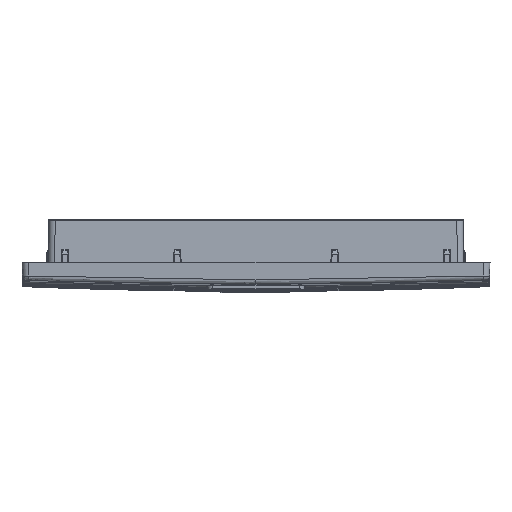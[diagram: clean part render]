
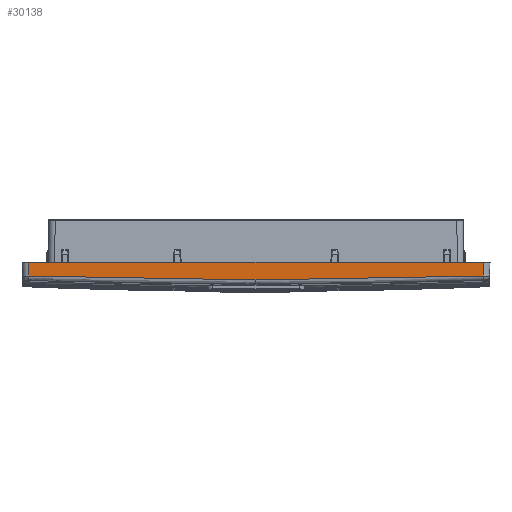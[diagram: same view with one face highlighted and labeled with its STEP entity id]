
A CAD part, top view. The second image highlights one B-rep face of the part: STEP entity #30138.
In plain terms, the highlighted planar face has unit normal (0, -0.035, 0.999).
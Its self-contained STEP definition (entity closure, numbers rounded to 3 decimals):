
#30138=ADVANCED_FACE('',(#32737),#83499,.T.);
#32737=FACE_OUTER_BOUND('',#35354,.T.);
#35354=EDGE_LOOP('',(#45743,#45744,#45745,#45746,#45747));
#45743=ORIENTED_EDGE('',*,*,#58487,.T.);
#45744=ORIENTED_EDGE('',*,*,#58488,.T.);
#45745=ORIENTED_EDGE('',*,*,#58489,.T.);
#45746=ORIENTED_EDGE('',*,*,#58490,.T.);
#45747=ORIENTED_EDGE('',*,*,#58491,.T.);
#58487=EDGE_CURVE('',#81377,#81378,#69559,.T.);
#58488=EDGE_CURVE('',#81378,#81379,#69560,.T.);
#58489=EDGE_CURVE('',#81379,#81380,#69561,.T.);
#58490=EDGE_CURVE('',#81380,#81381,#69562,.T.);
#58491=EDGE_CURVE('',#81381,#81377,#69563,.T.);
#69559=B_SPLINE_CURVE_WITH_KNOTS('',5,(#212353,#212354,#212355,#212356,
#212357,#212358,#212359,#212360,#212361),.UNSPECIFIED.,.F.,.F.,(6,3,6),
(0.,16.441,121.275),.UNSPECIFIED.);
#69560=B_SPLINE_CURVE_WITH_KNOTS('',1,(#212362,#212363),.UNSPECIFIED.,.F.,
 .F.,(2,2),(0.,7.246),.UNSPECIFIED.);
#69561=B_SPLINE_CURVE_WITH_KNOTS('',1,(#212364,#212365),.UNSPECIFIED.,.F.,
 .F.,(2,2),(0.,243.004),.UNSPECIFIED.);
#69562=B_SPLINE_CURVE_WITH_KNOTS('',1,(#212366,#212367),.UNSPECIFIED.,.F.,
 .F.,(2,2),(0.,7.246),.UNSPECIFIED.);
#69563=B_SPLINE_CURVE_WITH_KNOTS('',5,(#212368,#212369,#212370,#212371,
#212372,#212373,#212374,#212375,#212376),.UNSPECIFIED.,.F.,.F.,(6,3,6),
(0.,104.834,121.275),.UNSPECIFIED.);
#81377=VERTEX_POINT('',#212348);
#81378=VERTEX_POINT('',#212349);
#81379=VERTEX_POINT('',#212350);
#81380=VERTEX_POINT('',#212351);
#81381=VERTEX_POINT('',#212352);
#83499=PLANE('',#83974);
#83974=AXIS2_PLACEMENT_3D('',#212347,#84432,$);
#84432=DIRECTION('',(0.,-0.035,0.999));
#212347=CARTESIAN_POINT('',(121.502,-97.682,145.75));
#212348=CARTESIAN_POINT('',(0.,-97.589,145.753));
#212349=CARTESIAN_POINT('',(121.249,-95.529,145.825));
#212350=CARTESIAN_POINT('',(121.502,-88.293,146.078));
#212351=CARTESIAN_POINT('',(-121.502,-88.293,146.078));
#212352=CARTESIAN_POINT('',(-121.249,-95.529,145.825));
#212353=CARTESIAN_POINT('',(0.,-97.589,145.753));
#212354=CARTESIAN_POINT('',(3.287,-97.59,145.753));
#212355=CARTESIAN_POINT('',(6.586,-97.587,145.753));
#212356=CARTESIAN_POINT('',(9.951,-97.579,145.754));
#212357=CARTESIAN_POINT('',(34.187,-97.5,145.756));
#212358=CARTESIAN_POINT('',(58.425,-97.211,145.766));
#212359=CARTESIAN_POINT('',(79.375,-96.806,145.781));
#212360=CARTESIAN_POINT('',(100.315,-96.245,145.8));
#212361=CARTESIAN_POINT('',(121.249,-95.529,145.825));
#212362=CARTESIAN_POINT('',(121.249,-95.529,145.825));
#212363=CARTESIAN_POINT('',(121.502,-88.293,146.078));
#212364=CARTESIAN_POINT('',(121.502,-88.293,146.078));
#212365=CARTESIAN_POINT('',(-121.502,-88.293,146.078));
#212366=CARTESIAN_POINT('',(-121.502,-88.293,146.078));
#212367=CARTESIAN_POINT('',(-121.249,-95.529,145.825));
#212368=CARTESIAN_POINT('',(-121.249,-95.529,145.825));
#212369=CARTESIAN_POINT('',(-100.315,-96.245,145.8));
#212370=CARTESIAN_POINT('',(-79.375,-96.806,145.781));
#212371=CARTESIAN_POINT('',(-58.425,-97.211,145.766));
#212372=CARTESIAN_POINT('',(-34.187,-97.5,145.756));
#212373=CARTESIAN_POINT('',(-9.951,-97.579,145.754));
#212374=CARTESIAN_POINT('',(-6.586,-97.587,145.753));
#212375=CARTESIAN_POINT('',(-3.287,-97.59,145.753));
#212376=CARTESIAN_POINT('',(0.,-97.589,145.753));
